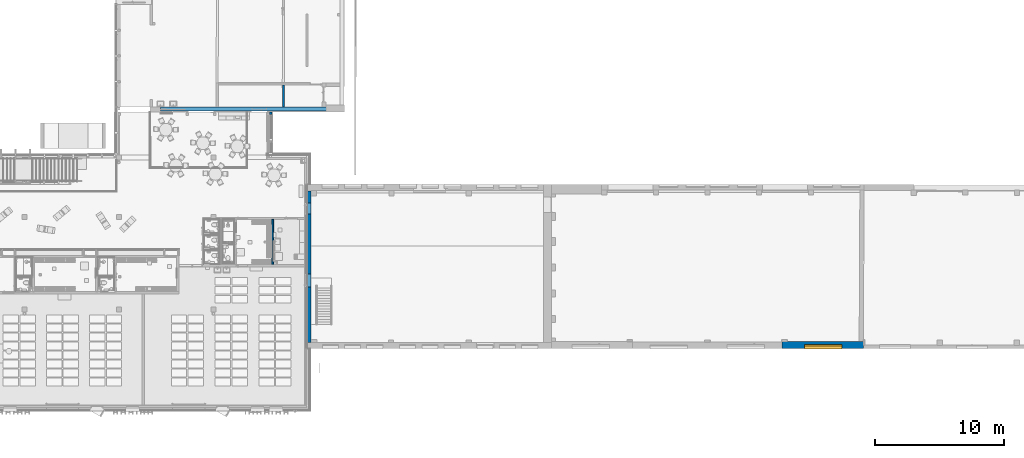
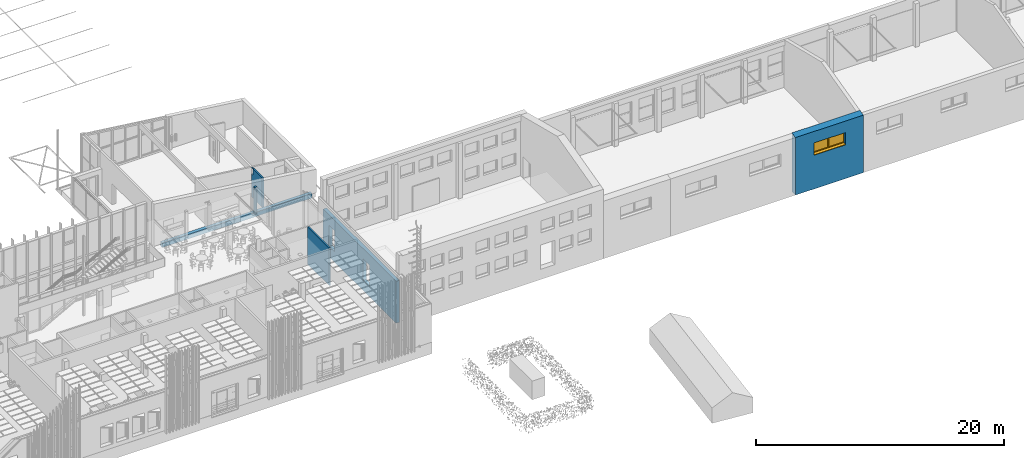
# One storey, part 157 of 301: 6 walls, 1 window, 3 openings.
"""IFC2X3 building model written with IfcOpenShell, lengths in millimetres."""

from ifc_helpers import new_model, entity, si_unit, converted_unit, derived_unit, money_unit, direction, frame, origin_with_axes, place, context, subcontext, project, spatial, open_shell, faceted_brep, surface_model, material, type_object, element, fill, save


model = new_model("IFC2X3")

# Units and contexts
model_context = context("Model", 3, precision=0.01, world=origin_with_axes(), true_north=direction((0.0, 1.0)))
body_context = subcontext(model_context, "Body", "Model", "MODEL_VIEW")
ifc_project = project(units=[si_unit("LENGTHUNIT", "METRE", prefix="MILLI"), si_unit("AREAUNIT", "SQUARE_METRE"), si_unit("VOLUMEUNIT", "CUBIC_METRE"), converted_unit("PLANEANGLEUNIT", "DEGREE", entity("IfcPlaneAngleMeasure", 0.0174532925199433), si_unit("PLANEANGLEUNIT", "RADIAN"), dimensions=[0, 0, 0, 0, 0, 0, 0]), money_unit("EUR"), converted_unit("TIMEUNIT", "Year", entity("IfcTimeMeasure", 31557600.0), si_unit("TIMEUNIT", "SECOND"), dimensions=[0, 0, 1, 0, 0, 0, 0]), si_unit("MASSUNIT", "GRAM", prefix="KILO"), si_unit("THERMODYNAMICTEMPERATUREUNIT", "DEGREE_CELSIUS"), si_unit("LUMINOUSINTENSITYUNIT", "LUMEN"), si_unit("ENERGYUNIT", "JOULE", prefix="MEGA"), derived_unit("THERMALCONDUCTANCEUNIT", [(si_unit("POWERUNIT", "WATT"), 1), (si_unit("LENGTHUNIT", "METRE"), -1), (si_unit("THERMODYNAMICTEMPERATUREUNIT", "KELVIN"), -1)]), derived_unit("SPECIFICHEATCAPACITYUNIT", [(si_unit("ENERGYUNIT", "JOULE"), 1), (si_unit("MASSUNIT", "GRAM", prefix="KILO"), -1), (si_unit("THERMODYNAMICTEMPERATUREUNIT", "KELVIN"), -1)]), derived_unit("MASSDENSITYUNIT", [(si_unit("MASSUNIT", "GRAM", prefix="KILO"), 1), (si_unit("VOLUMEUNIT", "CUBIC_METRE"), -1)])], contexts=[model_context])

# Site, building, storey
site_placement = place(None, frame((0.0, 0.0, 8650.0), z_axis=(0.0, 0.0, 1.0), x_axis=(1.0, 0.0, 0.0)))
site = spatial("IfcSite", under=ifc_project, at=site_placement, Name="43301:001:0844", CompositionType="ELEMENT")
building_placement = place(site_placement, origin_with_axes())
building = spatial("IfcBuilding", under=site, at=building_placement, Name="Kuressaare Ametikooli tuulikute mehaanikute õppekorpus", CompositionType="ELEMENT")
storey_placement = place(building_placement, origin_with_axes())
storey = spatial("IfcBuildingStorey", under=building, at=storey_placement, Name="1.korrus", CompositionType="ELEMENT", Elevation=0.0)

# Walls
ifc_material_1 = material(Name="Betoonõõnesplokk")
wall_type_1 = type_object("IfcWallType", Name="SS-1.2 140", PredefinedType="NOTDEFINED")
wall_1_placement = place(storey_placement, frame((130614.9464826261, 20074.46984143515, 0.0), z_axis=(0.0, 0.0, 1.0), x_axis=(0.0, 1.0, 0.0)))
element("IfcWall", 1, at=wall_1_placement, inside=storey, type_object=wall_type_1, material=ifc_material_1, Name="Sisesein", context=body_context, shape_type="Brep", body=[
    faceted_brep([(3499.599082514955, 139.9999999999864, 0.0), (3499.599082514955, 139.9999999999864, 3690.0), (3499.599082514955, 0.0, 3690.0), (3499.599082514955, 0.0, 0.0), (0.0, 139.9999999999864, 3690.0), (0.0, 139.9999999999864, 0.0), (0.0, 0.0, 3690.0), (0.0, 0.0, 0.0)], [[[0, 1, 2, 3]], [[4, 1, 0, 5]], [[6, 2, 1, 4]], [[3, 2, 6, 7]], [[5, 0, 3, 7]], [[7, 6, 4, 5]]]),
])
ifc_material_2 = material(Name="GENEERILINE - VÄLINE VOODER")
wall_type_2 = type_object("IfcWallType", Name="GENEERILINE - VÄLINE VOODER 200", PredefinedType="NOTDEFINED")
wall_2_placement = place(storey_placement, frame((130276.4548487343, 31728.9172491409, 0.0), z_axis=(0.0, 0.0, 1.0), x_axis=(0.0, 1.0, 0.0)))
element("IfcWall", 2, at=wall_2_placement, inside=storey, type_object=wall_type_2, material=ifc_material_2, Name="Sisesein", context=body_context, shape_type="Brep", body=[
    faceted_brep([(0.0, 0.0, 0.0), (199.6100878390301, 0.0, 0.0), (199.6100878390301, -199.9999999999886, 0.0), (0.0, -199.9999999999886, 0.0), (0.0, 0.0, 2669.999946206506), (199.6100878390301, 0.0, 2669.999946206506), (199.6100878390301, -199.9999999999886, 2669.999946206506), (0.0, -199.9999999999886, 2669.999946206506)], [[[0, 1, 2, 3]], [[4, 5, 1, 0]], [[2, 1, 5, 6]], [[3, 2, 6, 7]], [[4, 0, 3, 7]], [[7, 6, 5, 4]]]),
])

# Wall, opening, window
ifc_material_3 = material(Name="GENEERILINE - KONSTRUKTRIOON")
wall_type_3 = type_object("IfcWallType", Name="GENEERILINE - KONSTRUKTRIOON 560", PredefinedType="NOTDEFINED")
wall_3_placement = place(storey_placement, frame((176509.1400146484, 13517.65771690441, -1000.0), z_axis=(0.0, 0.0, 1.0), x_axis=(-1.0, 0.0, 0.0)))
wall_3 = element("IfcWall", 3, at=wall_3_placement, inside=storey, type_object=wall_type_3, material=ifc_material_3, Name="VS-XX", context=body_context, shape_type="Brep", body=[
    faceted_brep([(6348.326902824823, -560.0000000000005, 5806.357600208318), (0.0, -560.0000000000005, 5806.357600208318), (0.0, -560.0000000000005, 5200.0), (4.362813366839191, -560.0000000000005, 5200.0), (4.362813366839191, -560.0000000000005, 1000.0), (4.30684852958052, -560.0000000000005, 1000.0), (4.30684852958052, -560.0000000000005, 799.9999999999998), (0.0, -560.0000000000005, 799.9999999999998), (0.0, -560.0000000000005, 0.0), (6348.326902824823, -560.0000000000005, 0.0), (4586.89435417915, -560.0000000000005, 4540.0), (4586.89435417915, -560.0000000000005, 3420.0), (1666.894354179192, -560.0000000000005, 3420.0), (1666.894354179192, -560.0000000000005, 4540.0), (0.0, 0.0, 5670.001135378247), (6348.326902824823, 0.0, 5670.001135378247), (0.0, 0.0, 0.0), (0.0, -290.2556133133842, 799.9999999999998), (0.0, -290.2556133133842, 1000.0), (0.0, -259.9999999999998, 1000.0), (0.0, -259.9999999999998, 5200.0), (4.362813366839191, -259.9999999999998, 5200.0), (4.362813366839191, -290.2556607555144, 1000.0), (4.362813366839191, -548.5124050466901, 1000.0), (4.362813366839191, -259.9999999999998, 1000.0), (5.62097888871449, -290.2556744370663, 1000.0), (5.62097888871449, -290.2556744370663, 799.9999999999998), (6348.326902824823, 0.0, 0.0), (4586.89435417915, -230.0000000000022, 3420.0), (4586.89435417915, -230.0000000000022, 4540.0), (1666.894354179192, -230.0000000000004, 3420.0), (1666.894354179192, -230.0000000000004, 4540.0), (4586.89435417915, 0.0, 3370.0), (4586.89435417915, 0.0, 4540.0), (1666.894354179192, 0.0, 4540.0), (1666.894354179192, 0.0, 3370.0), (4586.89435417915, -230.0000000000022, 3370.0), (1666.894354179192, -230.0000000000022, 3370.0)], [[[0, 1, 2, 3, 4, 5, 6, 7, 8, 9], [10, 11, 12, 13]], [[14, 1, 0, 15]], [[1, 14, 16, 8, 7, 17, 18, 19, 20, 2]], [[3, 2, 20, 21]], [[22, 23, 4, 3, 21, 24]], [[5, 4, 23]], [[25, 26, 6, 5, 23]], [[26, 17, 7, 6]], [[8, 16, 27, 9]], [[15, 0, 9, 27]], [[28, 11, 10, 29]], [[30, 12, 11, 28]], [[31, 13, 12, 30]], [[29, 10, 13, 31]], [[14, 15, 27, 16], [32, 33, 34, 35]], [[17, 26, 25, 22, 18]], [[19, 18, 22, 24]], [[20, 19, 24, 21]], [[22, 25, 23]], [[36, 28, 29, 33, 32]], [[37, 30, 28, 36]], [[34, 31, 30, 37, 35]], [[33, 29, 31, 34]], [[32, 35, 37, 36]]]),
])
opening_1_placement = place(wall_3_placement, frame((3126.894354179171, 0.0, 3420.0), z_axis=(0.0, 0.0, 1.0), x_axis=(1.0, 0.0, 0.0)))
opening_1 = element("IfcOpeningElement", 4, at=opening_1_placement, cuts=wall_3, Name="VA-XX", context=body_context, shape_type="Brep", body=[
    faceted_brep([(-1459.99999999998, -230.0000000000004, 0.0), (-1459.99999999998, -230.0000000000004, 1120.0), (-1459.99999999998, 1.000000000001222, 1120.0), (-1459.99999999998, 0.9999999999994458, -49.99999999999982), (-1459.99999999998, -230.0000000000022, -49.99999999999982), (-1459.99999999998, -561.0, 0.0), (-1459.99999999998, -561.0, 1120.0), (1459.99999999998, -230.0000000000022, 1120.0), (1459.99999999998, 0.9999999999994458, 1120.0), (1459.99999999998, 0.9999999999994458, -49.99999999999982), (1459.99999999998, -230.0000000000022, -49.99999999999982), (1459.99999999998, -230.0000000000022, 0.0), (1459.99999999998, -561.0000000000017, 0.0), (1459.99999999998, -561.0000000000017, 1120.0)], [[[0, 1, 2, 3, 4]], [[1, 0, 5, 6]], [[1, 7, 8, 2]], [[8, 9, 3, 2]], [[10, 4, 3, 9]], [[11, 0, 4, 10]], [[0, 11, 12, 5]], [[6, 5, 12, 13]], [[7, 1, 6, 13]], [[7, 11, 10, 9, 8]], [[11, 7, 13, 12]]]),
])
window_style = type_object("IfcWindowStyle", Name="Double Window 27", ConstructionType="NOTDEFINED", OperationType="DOUBLE_PANEL_VERTICAL", ParameterTakesPrecedence=False, Sizeable=False)
window_placement = place(opening_1_placement, frame((1459.99999999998, 0.0, 0.0), z_axis=(0.0, 0.0, 1.0), x_axis=(-1.0, 0.0, 0.0)))
window = element("IfcWindow", 5, at=window_placement, inside=storey, type_object=window_style, Name="VA-XX", OverallHeight=1120.0, OverallWidth=2920.0, context=body_context, shape_type="SurfaceModel", body=[
    surface_model("IfcShellBasedSurfaceModel", [(0.0, 229.000000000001, -9.999999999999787), (0.0, -9.99999999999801, -51.73913043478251), (2919.999999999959, -9.999999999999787, -51.73913043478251), (2919.999999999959, 229.000000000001, -10.00000000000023), (0.0, -9.99999999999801, -86.73913043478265), (2919.999999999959, -9.999999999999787, -86.73913043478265), (2919.999999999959, 229.000000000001, 0.0), (0.0, 229.000000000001, 0.0), (0.0, -4.999999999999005, -81.73913043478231), (2919.999999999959, -4.999999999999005, -81.73913043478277)], [open_shell([[[0, 1, 2, 3]], [[4, 5, 2, 1]], [[0, 3, 6, 7]], [[8, 9, 5, 4]]])]),
    faceted_brep([(2869.999999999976, 230.0000000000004, 1070.0), (2919.999999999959, 230.0000000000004, 1070.0), (2919.999999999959, 315.0000000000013, 1070.0), (2869.999999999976, 315.0000000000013, 1070.0), (2869.999999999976, 230.0000000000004, 49.99999999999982), (2919.999999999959, 230.0000000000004, 49.99999999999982), (2919.999999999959, 315.0000000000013, 49.99999999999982), (2869.999999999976, 315.0000000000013, 49.99999999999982)], [[[0, 1, 2, 3]], [[0, 4, 5, 1]], [[1, 5, 6, 2]], [[3, 2, 6, 7]], [[4, 0, 3, 7]], [[5, 4, 7, 6]]]),
    faceted_brep([(49.99999999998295, 230.0000000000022, 49.99999999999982), (0.0, 230.0000000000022, 49.99999999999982), (0.0, 315.0000000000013, 49.99999999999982), (49.99999999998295, 315.0000000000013, 49.99999999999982), (49.99999999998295, 230.0000000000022, 1070.0), (0.0, 230.0000000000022, 1070.0), (0.0, 315.0000000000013, 1070.0), (49.99999999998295, 315.0000000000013, 1070.0)], [[[0, 1, 2, 3]], [[0, 4, 5, 1]], [[1, 5, 6, 2]], [[3, 2, 6, 7]], [[4, 0, 3, 7]], [[5, 4, 7, 6]]]),
    faceted_brep([(1509.999999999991, 230.0000000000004, 49.99999999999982), (1409.999999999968, 230.0000000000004, 49.99999999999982), (1409.999999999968, 315.0000000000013, 49.99999999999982), (1509.999999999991, 315.0000000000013, 49.99999999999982), (1509.999999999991, 230.0000000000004, 1070.0), (1409.999999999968, 230.0000000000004, 1070.0), (1409.999999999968, 315.0000000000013, 1070.0), (1509.999999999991, 315.0000000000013, 1070.0)], [[[0, 1, 2, 3]], [[0, 4, 5, 1]], [[1, 5, 6, 2]], [[3, 2, 6, 7]], [[4, 0, 3, 7]], [[5, 4, 7, 6]]]),
    faceted_brep([(2869.999999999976, 230.0000000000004, 49.99999999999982), (2919.999999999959, 230.0000000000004, 49.99999999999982), (2919.999999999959, 315.0000000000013, 49.99999999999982), (2869.999999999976, 315.0000000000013, 49.99999999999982), (1509.999999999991, 230.0000000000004, 49.99999999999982), (1409.999999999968, 230.0000000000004, 49.99999999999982), (49.99999999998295, 230.0000000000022, 49.99999999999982), (0.0, 230.0000000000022, 49.99999999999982), (0.0, 230.0000000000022, 0.0), (2919.999999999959, 230.0000000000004, 0.0), (2919.999999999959, 315.0000000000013, 0.0), (0.0, 315.0000000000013, 0.0), (0.0, 315.0000000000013, 49.99999999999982), (49.99999999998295, 315.0000000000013, 49.99999999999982), (1409.999999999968, 315.0000000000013, 49.99999999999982), (1509.999999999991, 315.0000000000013, 49.99999999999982)], [[[0, 1, 2, 3]], [[0, 4, 5, 6, 7, 8, 9, 1]], [[1, 9, 10, 2]], [[3, 2, 10, 11, 12, 13, 14, 15]], [[4, 0, 3, 15]], [[5, 4, 15, 14]], [[6, 5, 14, 13]], [[7, 6, 13, 12]], [[8, 7, 12, 11]], [[9, 8, 11, 10]]]),
    faceted_brep([(1509.999999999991, 230.0000000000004, 1070.0), (1409.999999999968, 230.0000000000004, 1070.0), (1409.999999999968, 315.0000000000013, 1070.0), (1509.999999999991, 315.0000000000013, 1070.0), (2869.999999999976, 230.0000000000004, 1070.0), (2919.999999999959, 230.0000000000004, 1070.0), (2919.999999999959, 230.0000000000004, 1120.0), (0.0, 230.0000000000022, 1120.0), (0.0, 230.0000000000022, 1070.0), (49.99999999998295, 230.0000000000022, 1070.0), (49.99999999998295, 315.0000000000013, 1070.0), (0.0, 315.0000000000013, 1070.0), (0.0, 315.0000000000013, 1120.0), (2919.999999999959, 315.0000000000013, 1120.0), (2919.999999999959, 315.0000000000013, 1070.0), (2869.999999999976, 315.0000000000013, 1070.0)], [[[0, 1, 2, 3]], [[0, 4, 5, 6, 7, 8, 9, 1]], [[1, 9, 10, 2]], [[3, 2, 10, 11, 12, 13, 14, 15]], [[4, 0, 3, 15]], [[5, 4, 15, 14]], [[6, 5, 14, 13]], [[7, 6, 13, 12]], [[8, 7, 12, 11]], [[9, 8, 11, 10]]]),
    surface_model("IfcShellBasedSurfaceModel", [(2869.999999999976, 280.0000000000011, 49.99999999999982), (2869.999999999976, 280.0000000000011, 1070.0), (1509.999999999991, 280.0000000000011, 1070.0), (1509.999999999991, 280.0000000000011, 49.99999999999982)], [open_shell([[[0, 1, 2, 3]]])]),
    surface_model("IfcShellBasedSurfaceModel", [(2869.999999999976, 300.0000000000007, 49.99999999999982), (1509.999999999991, 300.0000000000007, 49.99999999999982), (1509.999999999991, 300.0000000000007, 1070.0), (2869.999999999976, 300.0000000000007, 1070.0)], [open_shell([[[0, 1, 2, 3]]])]),
    surface_model("IfcShellBasedSurfaceModel", [(1409.999999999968, 280.0000000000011, 49.99999999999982), (1409.999999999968, 280.0000000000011, 1070.0), (49.99999999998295, 280.0000000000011, 1070.0), (49.99999999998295, 280.0000000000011, 49.99999999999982)], [open_shell([[[0, 1, 2, 3]]])]),
    surface_model("IfcShellBasedSurfaceModel", [(1409.999999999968, 300.0000000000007, 49.99999999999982), (49.99999999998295, 300.0000000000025, 49.99999999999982), (49.99999999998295, 300.0000000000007, 1070.0), (1409.999999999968, 300.0000000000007, 1070.0)], [open_shell([[[0, 1, 2, 3]]])]),
])
fill(opening_1, window)

# Walls
wall_type_4 = type_object("IfcWallType", Name="GENEERILINE - KONSTRUKTRIOON 300", PredefinedType="NOTDEFINED")
wall_4_placement = place(storey_placement, frame((136080.4547532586, 32008.78680613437, -450.0), z_axis=(0.0, 0.0, 1.0), x_axis=(-1.0, 0.0, 0.0)))
element("IfcWall", 6, at=wall_4_placement, inside=storey, type_object=wall_type_4, material=ifc_material_3, Name="VS-XX", context=body_context, shape_type="Brep", body=[
    faceted_brep([(310.0000000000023, -299.9999999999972, 450.0), (14267.49596037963, -300.0000000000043, 450.0), (14267.49596037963, 0.0, 450.0), (310.0000000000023, 0.0, 450.0), (310.0000000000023, -299.9999999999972, 0.0), (14267.49596037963, -300.0000000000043, 0.0), (14267.49596037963, 0.0, 0.0), (310.0000000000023, 0.0, 0.0)], [[[0, 1, 2, 3]], [[4, 5, 1, 0]], [[2, 1, 5, 6]], [[3, 2, 6, 7]], [[4, 0, 3, 7]], [[7, 6, 5, 4]]]),
])
wall_type_5 = type_object("IfcWallType", Name="GENEERILINE - KONSTRUKTRIOON 180", PredefinedType="NOTDEFINED")
wall_5_placement = place(storey_placement, frame((131287.562266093, 34208.58435854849, 0.0), z_axis=(0.0, 0.0, 1.0), x_axis=(2.113666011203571e-09, -1.0, 0.0)))
element("IfcWall", 7, at=wall_5_placement, inside=storey, type_object=wall_type_5, material=ifc_material_3, context=body_context, shape_type="Brep", body=[
    faceted_brep([(149.9999999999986, -3.170441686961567e-07, 0.0), (149.9999999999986, -3.170441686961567e-07, 2289.613193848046), (149.9999999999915, 153.4241642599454, 2289.613193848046), (149.9999999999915, 153.4241642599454, 2883.149315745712), (149.9999999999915, 179.9999996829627, 2879.886213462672), (149.9999999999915, 179.9999996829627, 0.0), (408.6427111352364, -8.637357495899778e-07, 2889.613193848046), (408.6427111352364, -8.637357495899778e-07, 2289.613193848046), (1899.757072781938, -4.015447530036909e-06, 0.0), (1899.757072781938, -4.015447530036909e-06, 2901.987432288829), (149.9999999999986, -3.170441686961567e-07, 2901.987434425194), (149.9999999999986, -3.170441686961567e-07, 2889.613193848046), (408.9726851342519, 152.8651470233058, 2289.613193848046), (408.9726851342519, 152.8651470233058, 2883.217954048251), (408.8602545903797, 100.7800986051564, 2889.613193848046), (149.9999999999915, 100.7801017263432, 2889.613193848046), (1899.757073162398, 179.9999959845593, 2879.886211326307), (1899.757073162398, 179.9999959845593, 0.0)], [[[0, 1, 2, 3, 4, 5]], [[6, 7, 1, 0, 8, 9, 10, 11]], [[12, 2, 1, 7]], [[3, 2, 12, 13]], [[3, 13, 14, 15, 10, 9, 16, 4]], [[16, 17, 5, 4]], [[5, 17, 8, 0]], [[12, 7, 6, 14, 13]], [[9, 8, 17, 16]], [[15, 11, 10]], [[6, 11, 15, 14]]]),
])

# Wall, openings
wall_type_6 = type_object("IfcWallType", Name="GENEERILINE - KONSTRUKTRIOON 320", PredefinedType="NOTDEFINED")
wall_6_placement = place(storey_placement, frame((133214.9464416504, 26335.32878583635, -1000.0), z_axis=(0.0, 0.0, 1.0), x_axis=(0.0, -1.0, 0.0)))
wall_6 = element("IfcWall", 8, at=wall_6_placement, inside=storey, type_object=wall_type_6, material=ifc_material_3, Name="SS-XX", context=body_context, shape_type="Brep", body=[
    faceted_brep([(12317.67106893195, 0.0, 4135.0), (550.0013600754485, 0.0, 4135.0), (550.0013600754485, 0.0, 0.0), (12317.67106893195, 0.0, 0.0), (1490.340153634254, 0.0, 1000.0), (1490.340153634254, 0.0, 3100.0), (2340.340153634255, 0.0, 3100.0), (2340.340153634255, 0.0, 1000.0), (8007.67106235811, 0.0, 1000.0), (6997.671062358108, 0.0, 1000.0), (6997.671062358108, 0.0, 3110.0), (8007.67106235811, 0.0, 3110.0), (12317.67106893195, 319.9999999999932, 4135.0), (550.7130083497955, 319.9999999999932, 4135.0), (550.7130083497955, 319.9999999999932, 0.0), (12317.67106893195, 319.9999999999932, 0.0), (1490.340153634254, 319.9999999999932, 3100.0), (1490.340153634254, 319.9999999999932, 1000.0), (2340.340153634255, 319.9999999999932, 3100.0), (2340.340153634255, 319.9999999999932, 1000.0), (8007.67106235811, 319.9999999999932, 1000.0), (6997.671062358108, 319.9999999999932, 1000.0), (6997.671062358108, 319.9999999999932, 3110.0), (8007.67106235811, 319.9999999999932, 3110.0)], [[[0, 1, 2, 3], [4, 5, 6, 7], [8, 9, 10, 11]], [[12, 13, 1, 0]], [[13, 14, 2, 1]], [[3, 2, 14, 15]], [[12, 0, 3, 15]], [[16, 5, 4, 17]], [[18, 6, 5, 16]], [[19, 7, 6, 18]], [[17, 4, 7, 19]], [[20, 21, 9, 8]], [[21, 22, 10, 9]], [[22, 23, 11, 10]], [[23, 20, 8, 11]], [[15, 14, 13, 12], [18, 16, 17, 19], [20, 23, 22, 21]]]),
])
opening_2_placement = place(wall_6_placement, frame((1915.340153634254, 0.0, 1000.0), z_axis=(0.0, 0.0, 1.0), x_axis=(1.0, 0.0, 0.0)))
element("IfcOpeningElement", 9, at=opening_2_placement, cuts=wall_6, Name="ava", context=body_context, shape_type="Brep", body=[
    faceted_brep([(425.0000000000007, 0.0, 2100.0), (-425.0000000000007, 0.0, 2100.0), (-425.0000000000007, -1.000000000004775, 2100.0), (425.0000000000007, -1.000000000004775, 2100.0), (425.0000000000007, 320.999999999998, 2100.0), (-425.0000000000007, 320.999999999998, 2100.0), (-425.0000000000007, 0.0, 0.0), (-425.0000000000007, -1.000000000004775, 0.0), (425.0000000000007, -1.000000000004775, 0.0), (425.0000000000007, 0.0, 0.0), (425.0000000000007, 320.999999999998, 0.0), (-425.0000000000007, 320.999999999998, 0.0)], [[[0, 1, 2, 3]], [[1, 0, 4, 5]], [[1, 6, 7, 2]], [[7, 8, 3, 2]], [[9, 0, 3, 8]], [[0, 9, 10, 4]], [[4, 10, 11, 5]], [[6, 1, 5, 11]], [[6, 9, 8, 7]], [[9, 6, 11, 10]]]),
])
opening_3_placement = place(wall_6_placement, frame((7502.671062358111, 0.0, 1000.0), z_axis=(0.0, 0.0, 1.0), x_axis=(1.0, 0.0, 0.0)))
element("IfcOpeningElement", 10, at=opening_3_placement, cuts=wall_6, Name="ava", context=body_context, shape_type="Brep", body=[
    faceted_brep([(504.999999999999, 0.0, 2110.0), (-505.0000000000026, 0.0, 2110.0), (-505.0000000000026, -1.000000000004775, 2110.0), (504.999999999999, -1.000000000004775, 2110.0), (504.999999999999, 320.999999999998, 2110.0), (-505.0000000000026, 320.999999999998, 2110.0), (-505.0000000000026, 0.0, 0.0), (-505.0000000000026, -1.000000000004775, 0.0), (504.999999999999, -1.000000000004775, 0.0), (504.999999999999, 0.0, 0.0), (504.999999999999, 320.999999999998, 0.0), (-505.0000000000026, 320.999999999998, 0.0)], [[[0, 1, 2, 3]], [[1, 0, 4, 5]], [[1, 6, 7, 2]], [[7, 8, 3, 2]], [[9, 0, 3, 8]], [[0, 9, 10, 4]], [[4, 10, 11, 5]], [[6, 1, 5, 11]], [[6, 9, 8, 7]], [[9, 6, 11, 10]]]),
])

save(model, "model.ifc")
